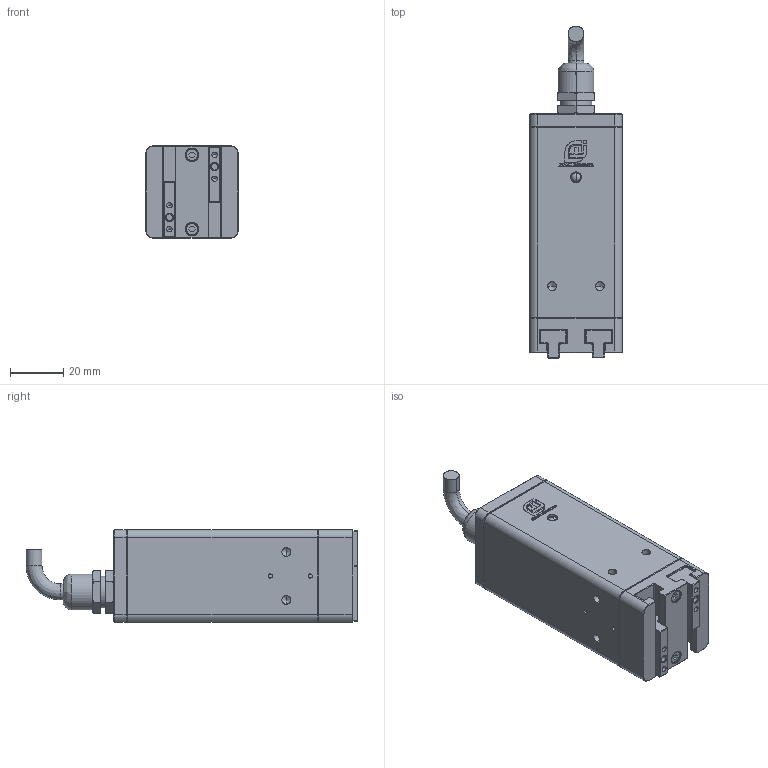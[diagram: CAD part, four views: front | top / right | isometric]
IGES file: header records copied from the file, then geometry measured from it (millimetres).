
Start section: SolidWorks IGES file using analytic representation for surfaces
Global section: file name: 2HC:\Users\Administrator\Desktop\EPG06000000淕儂-0.IGS; native system: SolidWorks 2016; preprocessor: SolidWorks 2016; author: Administrator; date: 211208.155807; units: millimetre
Bounding box: 35 x 125 x 35 mm (x, y, z)
Surface area: 27617.1 mm2 (no closed solid volume)
Topology: 0 solids, 0 shells, 909 faces, 7908 edges, 7862 vertices
Faces by surface type: bspline 583, revolution 326
